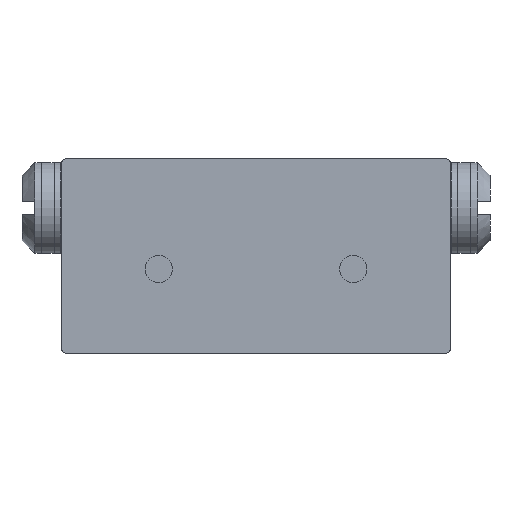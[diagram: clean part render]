
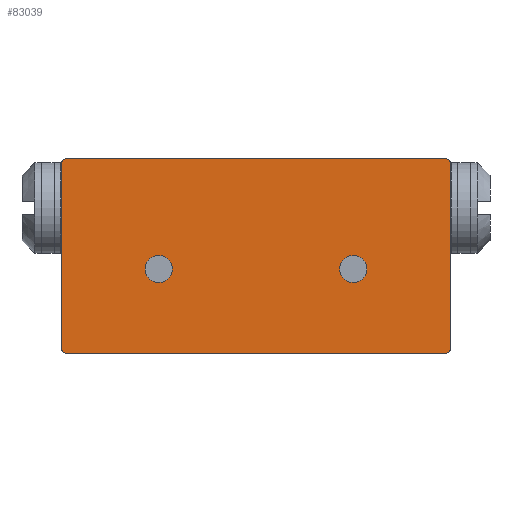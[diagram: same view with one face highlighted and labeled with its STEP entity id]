
A CAD part, front view. The second image highlights one B-rep face of the part: STEP entity #83039.
In plain terms, the highlighted planar face has unit normal (0, -1, 0).
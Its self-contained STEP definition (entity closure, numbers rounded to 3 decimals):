
#517 = DIRECTION ( 'NONE',  ( 0., -1., 0. ) ) ;
#731 = VECTOR ( 'NONE', #94196, 1000. ) ;
#3402 = ORIENTED_EDGE ( 'NONE', *, *, #59845, .T. ) ;
#3895 = ORIENTED_EDGE ( 'NONE', *, *, #37790, .T. ) ;
#4326 = CIRCLE ( 'NONE', #44762, 2.1 ) ;
#5089 = VERTEX_POINT ( 'NONE', #64100 ) ;
#5193 = EDGE_CURVE ( 'NONE', #46776, #47791, #40772, .T. ) ;
#5415 = FACE_OUTER_BOUND ( 'NONE', #57727, .T. ) ;
#6562 = AXIS2_PLACEMENT_3D ( 'NONE', #62367, #99428, #61373 ) ;
#6820 = CARTESIAN_POINT ( 'NONE',  ( 0.7, -120., 0.7 ) ) ;
#10471 = DIRECTION ( 'NONE',  ( 0., 0., -1. ) ) ;
#10513 = CARTESIAN_POINT ( 'NONE',  ( 45., -120., 10.9 ) ) ;
#12734 = AXIS2_PLACEMENT_3D ( 'NONE', #26610, #43785, #81789 ) ;
#13386 = EDGE_CURVE ( 'NONE', #29624, #42369, #25708, .T. ) ;
#14166 = CARTESIAN_POINT ( 'NONE',  ( 0., -120., 0.7 ) ) ;
#15883 = VERTEX_POINT ( 'NONE', #77862 ) ;
#17629 = CARTESIAN_POINT ( 'NONE',  ( 15., -120., 13. ) ) ;
#18181 = EDGE_CURVE ( 'NONE', #5089, #34559, #24797, .T. ) ;
#18670 = AXIS2_PLACEMENT_3D ( 'NONE', #71512, #48232, #86235 ) ;
#19851 = ORIENTED_EDGE ( 'NONE', *, *, #57436, .F. ) ;
#20841 = ORIENTED_EDGE ( 'NONE', *, *, #37820, .F. ) ;
#21472 = CARTESIAN_POINT ( 'NONE',  ( 0., -120., 30. ) ) ;
#21528 = DIRECTION ( 'NONE',  ( 0., -1., 0. ) ) ;
#24280 = ORIENTED_EDGE ( 'NONE', *, *, #31738, .T. ) ;
#24797 = LINE ( 'NONE', #63244, #731 ) ;
#25708 = LINE ( 'NONE', #95102, #44368 ) ;
#26610 = CARTESIAN_POINT ( 'NONE',  ( 59.3, -120., 0.7 ) ) ;
#27303 = CARTESIAN_POINT ( 'NONE',  ( 45., -120., 15.1 ) ) ;
#29624 = VERTEX_POINT ( 'NONE', #66224 ) ;
#31445 = DIRECTION ( 'NONE',  ( 0., 0., -1. ) ) ;
#31738 = EDGE_CURVE ( 'NONE', #32906, #29624, #52644, .T. ) ;
#31863 = CIRCLE ( 'NONE', #86877, 0.7 ) ;
#32435 = CARTESIAN_POINT ( 'NONE',  ( 15., -120., 13. ) ) ;
#32906 = VERTEX_POINT ( 'NONE', #57934 ) ;
#33403 = ORIENTED_EDGE ( 'NONE', *, *, #13386, .T. ) ;
#34243 = EDGE_CURVE ( 'NONE', #42369, #46550, #31863, .T. ) ;
#34264 = AXIS2_PLACEMENT_3D ( 'NONE', #60003, #21528, #67106 ) ;
#34324 = DIRECTION ( 'NONE',  ( 1., 0., 0. ) ) ;
#34438 = ORIENTED_EDGE ( 'NONE', *, *, #65122, .T. ) ;
#34559 = VERTEX_POINT ( 'NONE', #71981 ) ;
#35306 = VECTOR ( 'NONE', #34324, 1000. ) ;
#35836 = LINE ( 'NONE', #58584, #35306 ) ;
#36347 = PLANE ( 'NONE',  #50856 ) ;
#36556 = VERTEX_POINT ( 'NONE', #74286 ) ;
#37313 = CIRCLE ( 'NONE', #6562, 0.7 ) ;
#37749 = DIRECTION ( 'NONE',  ( 0., -1., 0. ) ) ;
#37790 = EDGE_CURVE ( 'NONE', #36556, #34559, #74199, .T. ) ;
#37820 = EDGE_CURVE ( 'NONE', #32906, #100213, #60451, .T. ) ;
#39940 = CARTESIAN_POINT ( 'NONE',  ( 45., -120., 13. ) ) ;
#40033 = CIRCLE ( 'NONE', #95076, 2.1 ) ;
#40293 = ORIENTED_EDGE ( 'NONE', *, *, #18181, .F. ) ;
#40772 = CIRCLE ( 'NONE', #34264, 2.1 ) ;
#42369 = VERTEX_POINT ( 'NONE', #14166 ) ;
#43785 = DIRECTION ( 'NONE',  ( 0., -1., 0. ) ) ;
#44368 = VECTOR ( 'NONE', #10471, 1000. ) ;
#44762 = AXIS2_PLACEMENT_3D ( 'NONE', #39940, #79912, #95142 ) ;
#46550 = VERTEX_POINT ( 'NONE', #80098 ) ;
#46776 = VERTEX_POINT ( 'NONE', #27303 ) ;
#47791 = VERTEX_POINT ( 'NONE', #10513 ) ;
#48232 = DIRECTION ( 'NONE',  ( 0., -1., 0. ) ) ;
#48529 = DIRECTION ( 'NONE',  ( 0., 0., -1. ) ) ;
#50501 = DIRECTION ( 'NONE',  ( 0., 1., 0. ) ) ;
#50856 = AXIS2_PLACEMENT_3D ( 'NONE', #95273, #50501, #97638 ) ;
#52357 = DIRECTION ( 'NONE',  ( 1., 0., 0. ) ) ;
#52523 = CIRCLE ( 'NONE', #89730, 2.1 ) ;
#52644 = CIRCLE ( 'NONE', #18670, 0.7 ) ;
#56406 = VECTOR ( 'NONE', #52357, 1000. ) ;
#57436 = EDGE_CURVE ( 'NONE', #47791, #46776, #4326, .T. ) ;
#57727 = EDGE_LOOP ( 'NONE', ( #33403, #84242, #3402, #3895, #40293, #34438, #20841, #24280 ) ) ;
#57934 = CARTESIAN_POINT ( 'NONE',  ( 0.7, -120., 30. ) ) ;
#58018 = VERTEX_POINT ( 'NONE', #98012 ) ;
#58584 = CARTESIAN_POINT ( 'NONE',  ( 0., -120., 0. ) ) ;
#58593 = FACE_BOUND ( 'NONE', #94902, .T. ) ;
#59845 = EDGE_CURVE ( 'NONE', #46550, #36556, #35836, .T. ) ;
#60003 = CARTESIAN_POINT ( 'NONE',  ( 45., -120., 13. ) ) ;
#60451 = LINE ( 'NONE', #21472, #56406 ) ;
#61373 = DIRECTION ( 'NONE',  ( 0., 0., 1. ) ) ;
#62367 = CARTESIAN_POINT ( 'NONE',  ( 59.3, -120., 29.3 ) ) ;
#63244 = CARTESIAN_POINT ( 'NONE',  ( 60., -120., 30. ) ) ;
#64100 = CARTESIAN_POINT ( 'NONE',  ( 60., -120., 29.3 ) ) ;
#64312 = FACE_BOUND ( 'NONE', #73979, .T. ) ;
#65122 = EDGE_CURVE ( 'NONE', #5089, #100213, #37313, .T. ) ;
#66224 = CARTESIAN_POINT ( 'NONE',  ( 0., -120., 29.3 ) ) ;
#67106 = DIRECTION ( 'NONE',  ( 0., 0., -1. ) ) ;
#68607 = DIRECTION ( 'NONE',  ( 0., 0., 1. ) ) ;
#68821 = ORIENTED_EDGE ( 'NONE', *, *, #76010, .F. ) ;
#68943 = ORIENTED_EDGE ( 'NONE', *, *, #92143, .F. ) ;
#70817 = DIRECTION ( 'NONE',  ( 0., -1., 0. ) ) ;
#71512 = CARTESIAN_POINT ( 'NONE',  ( 0.7, -120., 29.3 ) ) ;
#71981 = CARTESIAN_POINT ( 'NONE',  ( 60., -120., 0.7 ) ) ;
#73979 = EDGE_LOOP ( 'NONE', ( #19851, #83935 ) ) ;
#74199 = CIRCLE ( 'NONE', #12734, 0.7 ) ;
#74286 = CARTESIAN_POINT ( 'NONE',  ( 59.3, -120., 0. ) ) ;
#76010 = EDGE_CURVE ( 'NONE', #58018, #15883, #52523, .T. ) ;
#77862 = CARTESIAN_POINT ( 'NONE',  ( 15., -120., 10.9 ) ) ;
#79912 = DIRECTION ( 'NONE',  ( 0., -1., 0. ) ) ;
#80098 = CARTESIAN_POINT ( 'NONE',  ( 0.7, -120., 0. ) ) ;
#81789 = DIRECTION ( 'NONE',  ( 0., 0., 1. ) ) ;
#83039 = ADVANCED_FACE ( 'NONE', ( #58593, #64312, #5415 ), #36347, .F. ) ;
#83935 = ORIENTED_EDGE ( 'NONE', *, *, #5193, .F. ) ;
#84242 = ORIENTED_EDGE ( 'NONE', *, *, #34243, .T. ) ;
#86235 = DIRECTION ( 'NONE',  ( 0., 0., 1. ) ) ;
#86877 = AXIS2_PLACEMENT_3D ( 'NONE', #6820, #37749, #68607 ) ;
#89730 = AXIS2_PLACEMENT_3D ( 'NONE', #32435, #517, #31445 ) ;
#90374 = CARTESIAN_POINT ( 'NONE',  ( 59.3, -120., 30. ) ) ;
#92143 = EDGE_CURVE ( 'NONE', #15883, #58018, #40033, .T. ) ;
#94196 = DIRECTION ( 'NONE',  ( 0., 0., -1. ) ) ;
#94902 = EDGE_LOOP ( 'NONE', ( #68943, #68821 ) ) ;
#95076 = AXIS2_PLACEMENT_3D ( 'NONE', #17629, #70817, #48529 ) ;
#95102 = CARTESIAN_POINT ( 'NONE',  ( 0., -120., 30. ) ) ;
#95142 = DIRECTION ( 'NONE',  ( 0., 0., -1. ) ) ;
#95273 = CARTESIAN_POINT ( 'NONE',  ( 0., -120., 30. ) ) ;
#97638 = DIRECTION ( 'NONE',  ( 0., 0., 1. ) ) ;
#98012 = CARTESIAN_POINT ( 'NONE',  ( 15., -120., 15.1 ) ) ;
#99428 = DIRECTION ( 'NONE',  ( 0., -1., 0. ) ) ;
#100213 = VERTEX_POINT ( 'NONE', #90374 ) ;
